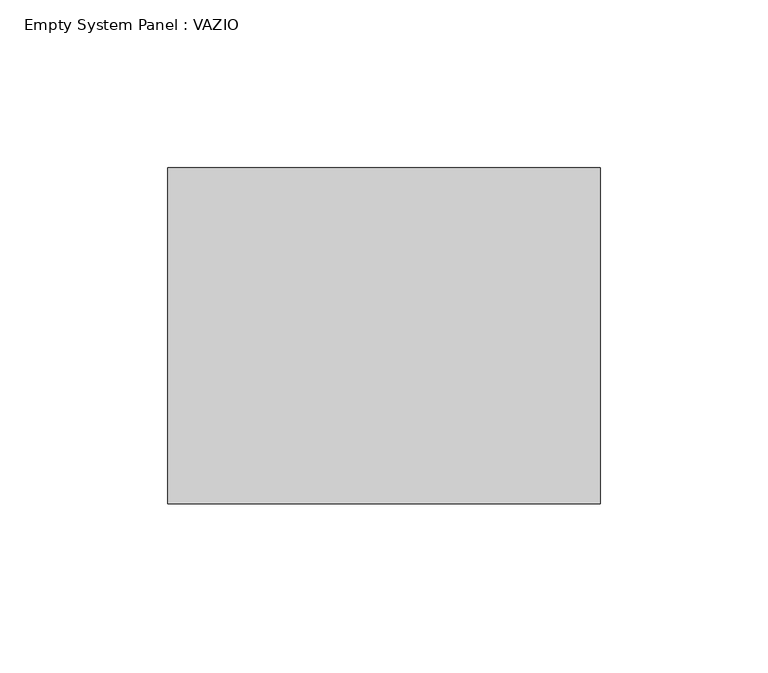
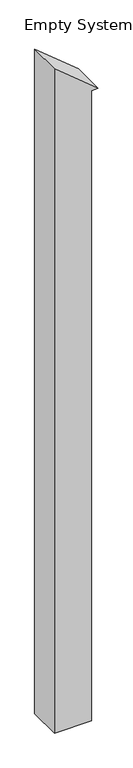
"""IFC4 building model written with IfcOpenShell, lengths in millimetres: plate geometry, Empty System Panel : VAZIO."""

from ifc_helpers import new_model, si_unit, point, frame, frame_2d, origin, place, context, project, spatial, polyline, circle_curve, trimmed, segment, composite_curve, outline, extrude, source, transform, mapped, element, save


def empty_system_panel_vazio_c9e882c8(model_context):
    return source(origin(), model_context, "Body", "SweptSolid", [
        extrude(outline(composite_curve([segment(polyline([(0.0, -64.3902439), (0.0, 44.3902439), (1959.6937652, 44.3902439), (1959.6937652, 64.3902439)]), True, "CONTINUOUS"), segment(trimmed(circle_curve(frame_2d((-470.6496213, -2038.5365854)), 3213.8559746), [point((1959.6937652, 64.3902439))], [point((2065.4135577, -64.3902439))], False, "CARTESIAN"), True, "CONTINUOUS"), segment(polyline([(2065.4135577, -64.3902439), (0.0, -64.3902439)]), True, "CONTINUOUS")], self_intersect=False)), frame((0.0, -50.0, 0.0), z_axis=(0.0, 1.0, 0.0), x_axis=(0.0, 0.0, 1.0)), (0.0, 0.0, 1.0), 100.0),
    ])


if __name__ == "__main__":
    model = new_model("IFC4")
    model_context = context("Model", 3, world=origin())
    ifc_project = project(units=[si_unit("LENGTHUNIT", "METRE", prefix="MILLI")], contexts=[model_context])
    site = spatial("IfcSite", under=ifc_project)
    building = spatial("IfcBuilding", under=site)
    placement = place(None, origin())
    empty_system_panel_vazio_shape = empty_system_panel_vazio_c9e882c8(model_context)
    element("IfcPlate", 1, ObjectType="Empty System Panel : VAZIO", at=placement, inside=building, context=model_context, shape_type="MappedRepresentation", body=[
        mapped(empty_system_panel_vazio_shape, transform((0.0, 0.0, 0.0), x_axis=(1.0, 0.0, 0.0), y_axis=(0.0, 1.0, 0.0), z_axis=(0.0, 0.0, 1.0))),
    ])
    save(model, "model.ifc")
